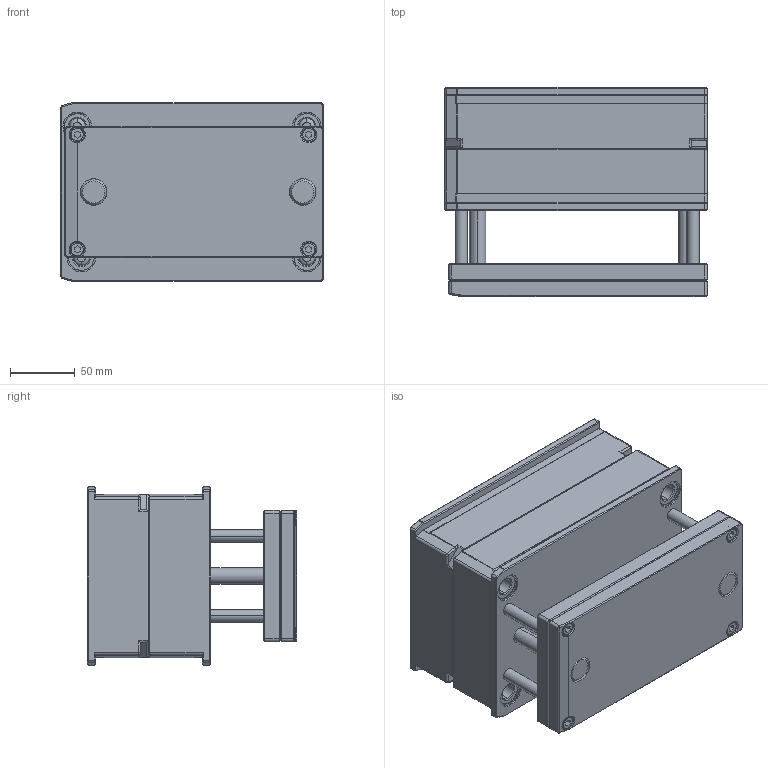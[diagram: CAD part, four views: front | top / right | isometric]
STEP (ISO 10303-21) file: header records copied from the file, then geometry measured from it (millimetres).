
FILE_DESCRIPTION (( 'STEP AP214' ), '1' );
FILE_NAME ('RTS0809-1818-RPGPB-SS.step', '2025-02-14T16:02:59', ( '' ), ( '' ), 'SwSTEP 2.0', 'SolidWorks 2023', '' );
FILE_SCHEMA (( 'AUTOMOTIVE_DESIGN' ));
Length unit declared in the file: inch
Products named in the file (13): RGEB50; RTI0809-PP-RPGPB-SS; RSB50L1.87; RTISPLX-75_SNAP RING - .75"; RLP50L3.00; RTI0809-EP-GP-SS; RTIGP-2.50; RTS0809-A18-SS; RTI-EP375L6-B18; RTS0809-1818-RPGPB-SS; SHCS25-20L.62_SHCS25-20L.62; RTISPLX-86_SNAP RING - .86; RTS0809-B18-RPGP-SS
Assembly tree (32 placements, depth 2):
  RTS0809-1818-RPGPB-SS
    RTS0809-A18-SS
    RTS0809-B18-RPGP-SS
    RTI0809-EP-GP-SS
    RTI0809-PP-RPGPB-SS
    RSB50L1.87  x4
    RLP50L3.00  x4
    SHCS25-20L.62_SHCS25-20L.62  x4
    RTISPLX-75_SNAP RING - .75"  x4
    RTISPLX-86_SNAP RING - .86  x4
    RGEB50  x2
    RTI-EP375L6-B18  x4
    RTIGP-2.50  x2
Bounding box: 203.2 x 161.93 x 138.58 mm (x, y, z)
Volume: 2998180.9 mm3; surface area: 364109.3 mm2
Topology: 32 solids, 32 shells, 1006 faces, 2361 edges, 1482 vertices
Faces by surface type: cylinder 378, plane 315, cone 179, bspline 100, torus 34
Entity records: 23225 total; most frequent: CARTESIAN_POINT 7811, DIRECTION 3191, ORIENTED_EDGE 3034, EDGE_CURVE 1517, AXIS2_PLACEMENT_3D 1245, VERTEX_POINT 951, EDGE_LOOP 762, LINE 701
